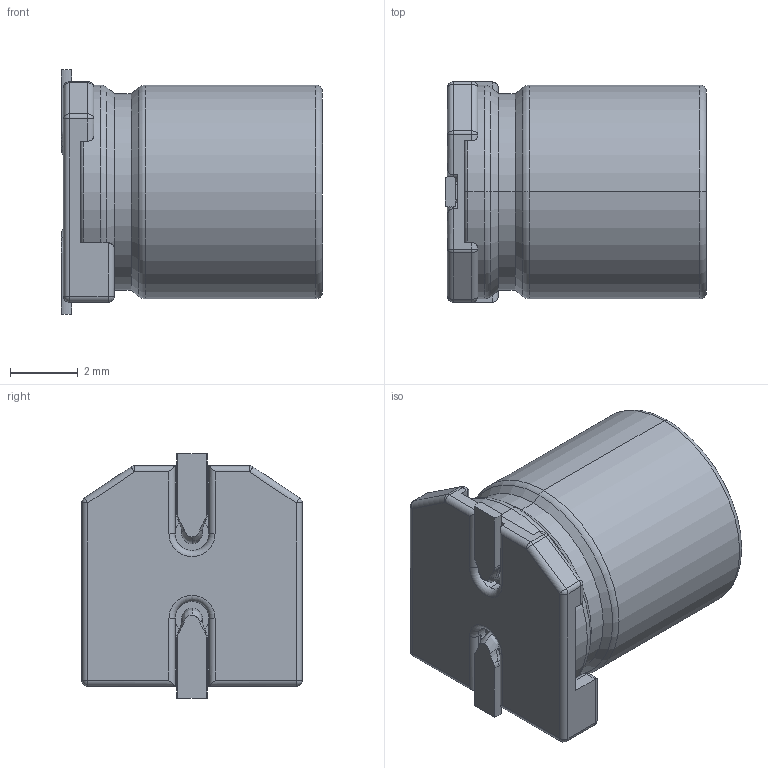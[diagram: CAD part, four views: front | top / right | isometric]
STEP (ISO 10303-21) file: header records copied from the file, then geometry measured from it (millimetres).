
FILE_DESCRIPTION((''),'2;1');
FILE_NAME('HYBRIDSMD63X77_ASM','2020-06-03T',('xy'),(''),'PRO/ENGINEER BY PARAMETRIC TECHNOLOGY CORPORATION, 2009380','PRO/ENGINEER BY PARAMETRIC TECHNOLOGY CORPORATION, 2009380','');
FILE_SCHEMA(('CONFIG_CONTROL_DESIGN'));
Length unit declared in the file: millimetre
Products named in the file (3): HYBRIDSMD63X77; ZB6-3A; HYBRIDSMD63X77_ASM
Assembly tree (2 placements, depth 2):
  HYBRIDSMD63X77_ASM
    HYBRIDSMD63X77
    ZB6-3A
Bounding box: 7.7 x 6.5 x 7.2 mm (x, y, z)
Volume: 240.4 mm3; surface area: 324.7 mm2
Topology: 2 solids, 2 shells, 553 faces, 1476 edges, 948 vertices
Faces by surface type: plane 419, cylinder 69, bspline 24, sphere 20, torus 17, cone 4
Entity records: 17937 total; most frequent: CARTESIAN_POINT 4171, ORIENTED_EDGE 2948, DIRECTION 2654, EDGE_CURVE 1474, VECTOR 1238, LINE 1238, VERTEX_POINT 948, AXIS2_PLACEMENT_3D 708
